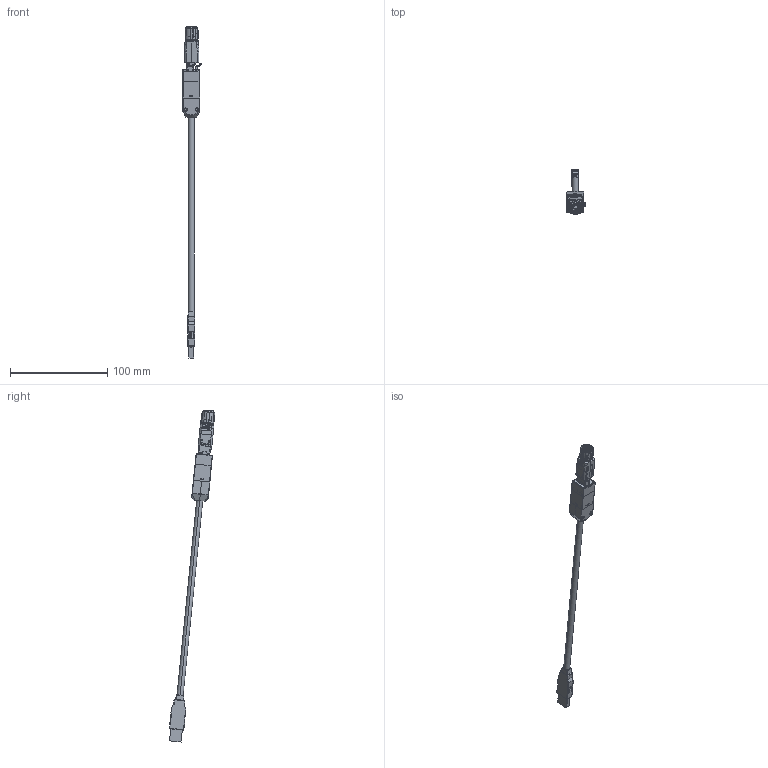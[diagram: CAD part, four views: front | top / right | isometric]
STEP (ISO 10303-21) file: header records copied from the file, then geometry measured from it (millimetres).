
FILE_DESCRIPTION (( 'STEP AP203' ), '1' );
FILE_NAME ('a10304-emoswitch-USB.STEP', '2021-08-16T12:17:53', ( '' ), ( '' ), 'SwSTEP 2.0', 'SolidWorks 2018', '' );
FILE_SCHEMA (( 'CONFIG_CONTROL_DESIGN' ));
Length unit declared in the file: millimetre
Products named in the file (1): a10304-emoswitch-USB
Bounding box: 18.9 x 46.54 x 341.03 mm (x, y, z)
Volume: 47660.7 mm3; surface area: 48505.4 mm2
Topology: 20 solids, 20 shells, 6831 faces, 19118 edges, 12206 vertices
Faces by surface type: plane 2887, cylinder 1770, bspline 1536, cone 416, torus 182, sphere 40
Entity records: 329176 total; most frequent: CARTESIAN_POINT 169227, ORIENTED_EDGE 37876, DIRECTION 27414, EDGE_CURVE 18938, VERTEX_POINT 12206, VECTOR 9332, LINE 9332, AXIS2_PLACEMENT_3D 9041
